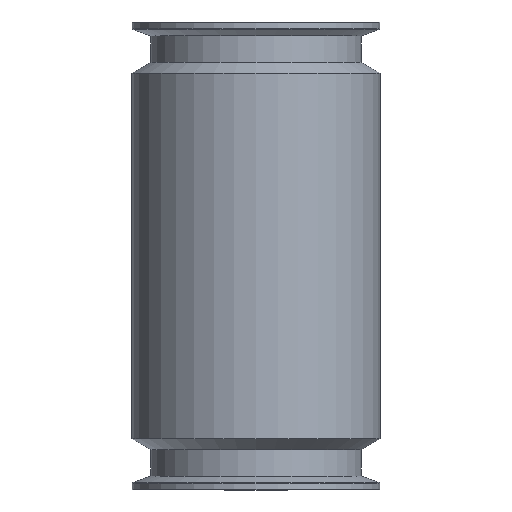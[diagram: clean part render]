
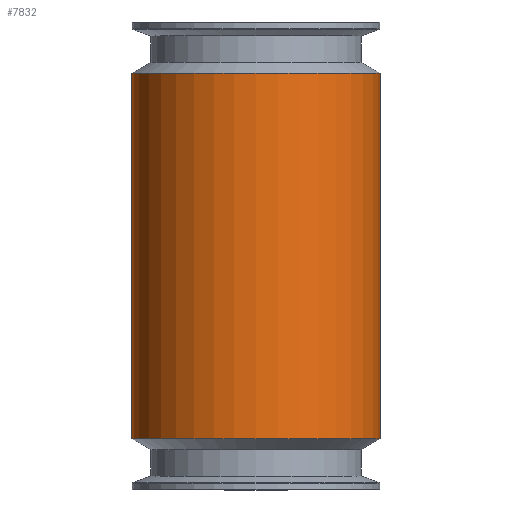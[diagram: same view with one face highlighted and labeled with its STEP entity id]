
A CAD part, front view. The second image highlights one B-rep face of the part: STEP entity #7832.
In plain terms, the highlighted cylindrical face has radius 53 mm (diameter 106 mm), a full revolution.
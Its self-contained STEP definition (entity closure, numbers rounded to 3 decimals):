
#6066=CYLINDRICAL_SURFACE('',#23168,53.);
#6858=B_SPLINE_CURVE_WITH_KNOTS('',3,(#43658,#43659,#43660,#43661,#43662,
#43663,#43664,#43665,#43666,#43667),.UNSPECIFIED.,.F.,.F.,(4,2,2,2,4),(0.,
0.25,0.5,0.75,1.),.UNSPECIFIED.);
#6859=B_SPLINE_CURVE_WITH_KNOTS('',3,(#43671,#43672,#43673,#43674,#43675,
#43676,#43677,#43678,#43679,#43680),.UNSPECIFIED.,.F.,.F.,(4,2,2,2,4),(0.,
0.25,0.5,0.75,1.),.UNSPECIFIED.);
#7832=ADVANCED_FACE('',(#8703,#8704,#8705),#6066,.T.);
#8703=FACE_BOUND('',#9953,.T.);
#8704=FACE_BOUND('',#9954,.T.);
#8705=FACE_BOUND('',#9955,.T.);
#9953=EDGE_LOOP('',(#15283));
#9954=EDGE_LOOP('',(#15284));
#9955=EDGE_LOOP('',(#15285,#15286,#15287,#15288));
#10633=CIRCLE('',#23166,53.);
#10634=CIRCLE('',#23167,53.);
#15283=ORIENTED_EDGE('',*,*,#19445,.T.);
#15284=ORIENTED_EDGE('',*,*,#19446,.T.);
#15285=ORIENTED_EDGE('',*,*,#19447,.F.);
#15286=ORIENTED_EDGE('',*,*,#19448,.T.);
#15287=ORIENTED_EDGE('',*,*,#19449,.F.);
#15288=ORIENTED_EDGE('',*,*,#19450,.T.);
#17074=VERTEX_POINT('',#43652);
#17075=VERTEX_POINT('',#43654);
#17076=VERTEX_POINT('',#43656);
#17077=VERTEX_POINT('',#43657);
#17078=VERTEX_POINT('',#43668);
#17079=VERTEX_POINT('',#43670);
#19445=EDGE_CURVE('',#17074,#17074,#10633,.T.);
#19446=EDGE_CURVE('',#17075,#17075,#10634,.T.);
#19447=EDGE_CURVE('',#17076,#17077,#20565,.T.);
#19448=EDGE_CURVE('',#17076,#17078,#6858,.T.);
#19449=EDGE_CURVE('',#17079,#17078,#20566,.T.);
#19450=EDGE_CURVE('',#17079,#17077,#6859,.T.);
#20565=LINE('',#43655,#21743);
#20566=LINE('',#43669,#21744);
#21743=VECTOR('',#27285,1.);
#21744=VECTOR('',#27286,1.);
#23166=AXIS2_PLACEMENT_3D('',#43651,#27281,#27282);
#23167=AXIS2_PLACEMENT_3D('',#43653,#27283,#27284);
#23168=AXIS2_PLACEMENT_3D('',#43681,#27287,#27288);
#27281=DIRECTION('',(0.,0.,-1.));
#27282=DIRECTION('',(1.,0.,0.));
#27283=DIRECTION('',(0.,0.,1.));
#27284=DIRECTION('',(-1.,0.,0.));
#27285=DIRECTION('',(0.,0.,1.));
#27286=DIRECTION('',(0.,0.,-1.));
#27287=DIRECTION('',(0.,0.,-1.));
#27288=DIRECTION('',(1.,0.,0.));
#43651=CARTESIAN_POINT('',(-0.016,-36.,84.874));
#43652=CARTESIAN_POINT('',(52.984,-36.,84.874));
#43653=CARTESIAN_POINT('',(-0.016,-36.,-71.358));
#43654=CARTESIAN_POINT('',(-53.016,-36.,-71.358));
#43655=CARTESIAN_POINT('',(-14.438,15.,120.358));
#43656=CARTESIAN_POINT('',(-14.438,15.,-8.861));
#43657=CARTESIAN_POINT('',(-14.438,15.,2.86));
#43658=CARTESIAN_POINT('',(-14.438,15.,-8.861));
#43659=CARTESIAN_POINT('',(-13.247,15.337,-11.699));
#43660=CARTESIAN_POINT('',(-11.212,15.868,-14.104));
#43661=CARTESIAN_POINT('',(-6.133,16.709,-17.439));
#43662=CARTESIAN_POINT('',(-3.108,17.,-18.352));
#43663=CARTESIAN_POINT('',(3.065,17.,-18.353));
#43664=CARTESIAN_POINT('',(6.106,16.708,-17.437));
#43665=CARTESIAN_POINT('',(11.178,15.868,-14.108));
#43666=CARTESIAN_POINT('',(13.214,15.337,-11.698));
#43667=CARTESIAN_POINT('',(14.407,15.,-8.86));
#43668=CARTESIAN_POINT('',(14.407,15.,-8.86));
#43669=CARTESIAN_POINT('',(14.407,15.,120.358));
#43670=CARTESIAN_POINT('',(14.406,15.,2.86));
#43671=CARTESIAN_POINT('',(14.406,15.,2.86));
#43672=CARTESIAN_POINT('',(13.213,15.338,5.697));
#43673=CARTESIAN_POINT('',(11.181,15.868,8.107));
#43674=CARTESIAN_POINT('',(6.101,16.709,11.44));
#43675=CARTESIAN_POINT('',(3.075,17.,12.351));
#43676=CARTESIAN_POINT('',(-3.099,17.,12.354));
#43677=CARTESIAN_POINT('',(-6.138,16.708,11.436));
#43678=CARTESIAN_POINT('',(-11.211,15.868,8.107));
#43679=CARTESIAN_POINT('',(-13.245,15.337,5.698));
#43680=CARTESIAN_POINT('',(-14.438,15.,2.86));
#43681=CARTESIAN_POINT('',(-0.016,-36.,120.358));
